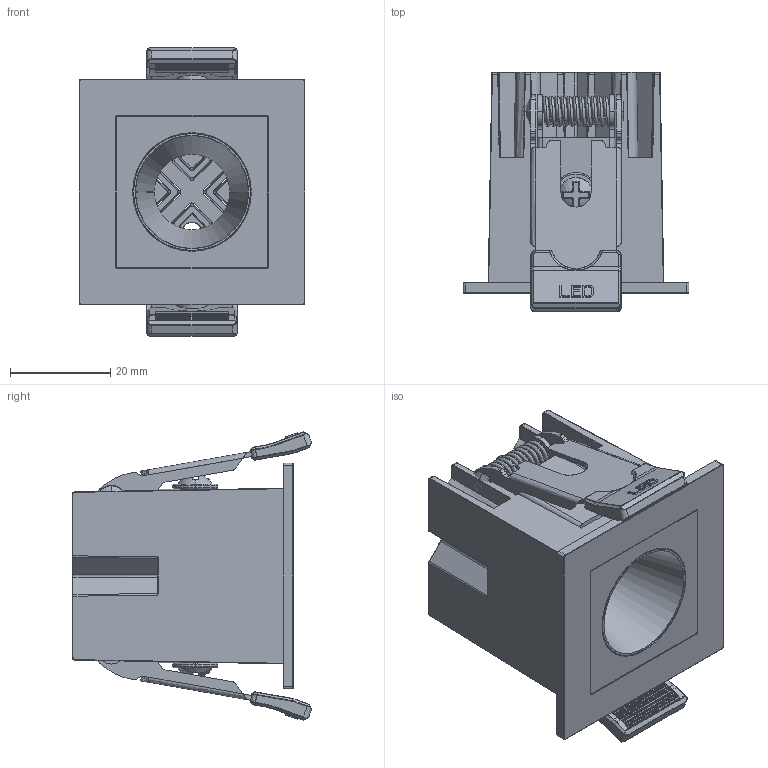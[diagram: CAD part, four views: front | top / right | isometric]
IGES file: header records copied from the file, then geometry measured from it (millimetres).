
Start section: SolidWorks IGES file using analytic representation for surfaces
Global section: file name: C:\Users\extension46\Desktop\3D-WEB\Invisible\Recessed\XL004-1t-3W.IGS; native system: SolidWorks 2023; preprocessor: SolidWorks 2023; author: y.wang; date: 240627.083625; units: millimetre
Bounding box: 45 x 47.65 x 57.42 mm (x, y, z)
Surface area: 21517.3 mm2 (no closed solid volume)
Topology: 0 solids, 0 shells, 961 faces, 8960 edges, 8934 vertices
Faces by surface type: bspline 562, revolution 399
